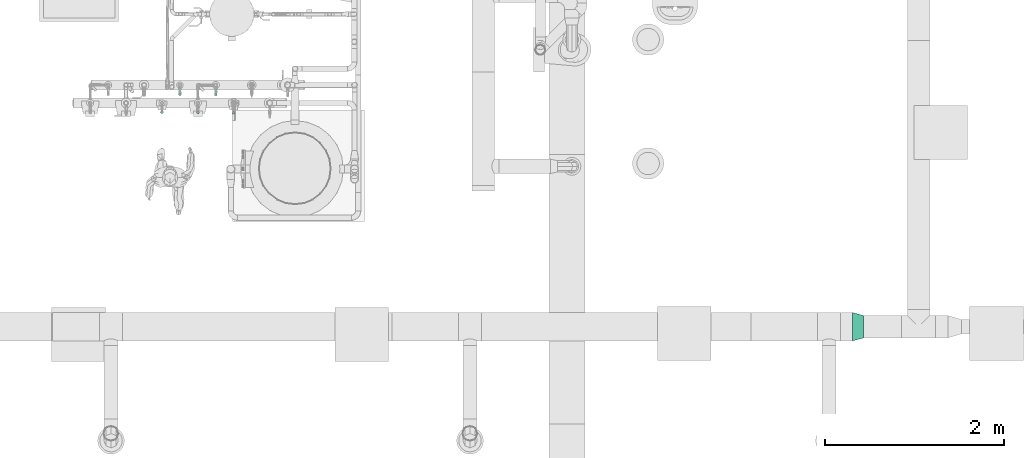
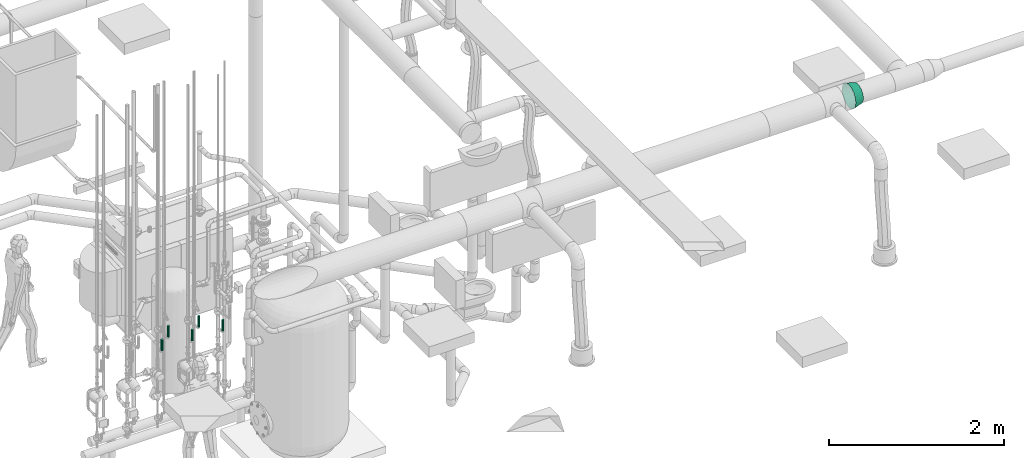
# One storey, part 99 of 374: 5 distribution control elements, 1 flow fitting.
"""IFC2X3 building model written with IfcOpenShell, lengths in metres."""

import ifcopenshell
import ifcopenshell.guid

model = None  # the IFC model being written
_history = None  # IfcOwnerHistory: only IFC2X3 demands one
_inside = {}  # id of a spatial element -> (the spatial element, [elements in it])
_under = {}  # id of a project, library or spatial element -> (it, [spatial elements below it])
_declared = {}  # id of a project -> (the project, [libraries it declares])
_typed = {}  # id of a type object -> (the type object, [elements of that type])
_made_of = {}  # id of a material, layer set ... -> (it, [elements and type objects made of it])


def new_model(schema):
    """Start an empty IFC model of exactly this schema.

    Asked for "IFC4X3", IfcOpenShell would pick the latest addendum, in which some entities
    have other attributes; the version numbers below select the first issue.
    IFC2X3 requires an IfcOwnerHistory on every rooted entity: one is made here for all.
    """
    global model, _history
    if schema == "IFC4X3":
        model = ifcopenshell.file(schema_version=(4, 3, 0, 0))
    else:
        model = ifcopenshell.file(schema=schema)
    _inside.clear()
    _under.clear()
    _declared.clear()
    _typed.clear()
    _made_of.clear()
    _history = None
    if model.schema == "IFC2X3":
        org = make("IfcOrganization", Name="unknown")
        user = make(
            "IfcPersonAndOrganization",
            ThePerson=make("IfcPerson", FamilyName="unknown"),
            TheOrganization=org,
        )
        app = make(
            "IfcApplication",
            ApplicationDeveloper=org,
            Version="unknown",
            ApplicationFullName="unknown",
            ApplicationIdentifier="unknown",
        )
        _history = make(
            "IfcOwnerHistory",
            OwningUser=user,
            OwningApplication=app,
            ChangeAction="ADDED",
            CreationDate=0,
        )
    return model


def make(cls, **values):
    """One entity of the class cls with the attributes given. An attribute that is None is left unset."""
    return model.create_entity(
        cls, **{name: value for name, value in values.items() if value is not None}
    )


def rooted(cls, **values):
    """An entity with a GlobalId (a new one), such as an element, a storey or a relation."""
    return make(cls, GlobalId=ifcopenshell.guid.new(), OwnerHistory=_history, **values)


def si_unit(unit_type, name, prefix=None):
    """IfcSIUnit, for example si_unit("LENGTHUNIT", "METRE", prefix="MILLI")."""
    return make("IfcSIUnit", UnitType=unit_type, Prefix=prefix, Name=name)


def assignment(units):
    """IfcUnitAssignment: the units of a project."""
    return None if units is None else make("IfcUnitAssignment", Units=units)


def point(xyz):
    """IfcCartesianPoint."""
    return None if xyz is None else make("IfcCartesianPoint", Coordinates=xyz)


def direction(xyz):
    """IfcDirection."""
    return None if xyz is None else make("IfcDirection", DirectionRatios=xyz)


def frame(location, z_axis=None, x_axis=None):
    """IfcAxis2Placement3D, a coordinate frame: its origin and axes. An axis left out is left unset."""
    return make(
        "IfcAxis2Placement3D",
        Location=point(location),
        Axis=direction(z_axis),
        RefDirection=direction(x_axis),
    )


def origin():
    """The frame at (0, 0, 0) with its axes left unset."""
    return frame((0.0, 0.0, 0.0))


def place(relative_to, where):
    """IfcLocalPlacement: puts the frame where relative to a parent placement (None: the world)."""
    return make(
        "IfcLocalPlacement", PlacementRelTo=relative_to, RelativePlacement=where
    )


def context(
    kind, dimensions, precision=None, world=None, true_north=None, identifier=None
):
    """IfcGeometricRepresentationContext, for example the 3D "Model" context."""
    return make(
        "IfcGeometricRepresentationContext",
        ContextIdentifier=identifier,
        ContextType=kind,
        CoordinateSpaceDimension=dimensions,
        Precision=precision,
        WorldCoordinateSystem=world,
        TrueNorth=true_north,
    )


def subcontext(parent, identifier, kind, view, scale=None):
    """IfcGeometricRepresentationSubContext, for example "Body" below "Model"."""
    return make(
        "IfcGeometricRepresentationSubContext",
        ContextIdentifier=identifier,
        ContextType=kind,
        ParentContext=parent,
        TargetScale=scale,
        TargetView=view,
    )


def project(units=None, contexts=None):
    """IfcProject with its units and contexts."""
    return rooted(
        "IfcProject",
        Name="project",
        RepresentationContexts=contexts,
        UnitsInContext=assignment(units),
    )


def spatial(cls, under=None, at=None, **own):
    """A site, building, storey or space (cls), placed at a placement, below another one or the project."""
    s = rooted(cls, ObjectPlacement=at, **own)
    if under is not None:
        _under.setdefault(under.id(), (under, []))[1].append(s)
    return s


def faces_of(points, faces, orient=None, outer=None):
    """IfcFace entities. A face is a list of loops; a loop is a list of indices into points, from 0.

    orient and outer hold one flag for each loop. By default every Orientation is true, the
    first loop of a face is its IfcFaceOuterBound and the others are IfcFaceBound.
    """
    made = []
    for i, loops in enumerate(faces):
        bounds = []
        for j, loop in enumerate(loops):
            is_outer = j == 0 if outer is None else outer[i][j]
            bounds.append(
                make(
                    "IfcFaceOuterBound" if is_outer else "IfcFaceBound",
                    Bound=make("IfcPolyLoop", Polygon=[points[k] for k in loop]),
                    Orientation=True if orient is None else orient[i][j],
                )
            )
        made.append(make("IfcFace", Bounds=bounds))
    return made


def open_shell(faces, orient=None, outer=None):
    """The faces of one IfcOpenShell. surface_model builds it on its shared points."""
    return ("IfcOpenShell", faces, orient, outer)


def surface_model(cls, points, shells):
    """IfcFaceBasedSurfaceModel or IfcShellBasedSurfaceModel (cls): surfaces that need not close."""
    shared = [point(p) for p in points]
    made = [make(c, CfsFaces=faces_of(shared, fs, o, b)) for c, fs, o, b in shells]
    if cls == "IfcFaceBasedSurfaceModel":
        return make(cls, FbsmFaces=made)
    return make(cls, SbsmBoundary=made)


def shape(context_of_items, identifier, shape_type, items):
    """IfcShapeRepresentation: the items that make up one representation, for example the "Body"."""
    return make(
        "IfcShapeRepresentation",
        ContextOfItems=context_of_items,
        RepresentationIdentifier=identifier,
        RepresentationType=shape_type,
        Items=items,
    )


def source(mapping_origin, context_of_items, identifier, shape_type, items):
    """IfcRepresentationMap: a shape defined once, which mapped items show again and again."""
    return make(
        "IfcRepresentationMap",
        MappingOrigin=mapping_origin,
        MappedRepresentation=shape(context_of_items, identifier, shape_type, items),
    )


def transform(
    local_origin,
    x_axis=None,
    y_axis=None,
    z_axis=None,
    scale=None,
    scale2=None,
    scale3=None,
    uniform=True,
):
    """IfcCartesianTransformationOperator3D, or its non-uniform kind. x_axis, y_axis, z_axis: its Axis1, 2, 3."""
    if uniform:
        return make(
            "IfcCartesianTransformationOperator3D",
            Axis1=direction(x_axis),
            Axis2=direction(y_axis),
            LocalOrigin=point(local_origin),
            Scale=scale,
            Axis3=direction(z_axis),
        )
    return make(
        "IfcCartesianTransformationOperator3DnonUniform",
        Axis1=direction(x_axis),
        Axis2=direction(y_axis),
        LocalOrigin=point(local_origin),
        Scale=scale,
        Axis3=direction(z_axis),
        Scale2=scale2,
        Scale3=scale3,
    )


def mapped(mapping_source, mapping_target):
    """IfcMappedItem: shows the shape of a source again, moved by a transform."""
    return make(
        "IfcMappedItem", MappingSource=mapping_source, MappingTarget=mapping_target
    )


def made_of(thing, what):
    """Note that an element or type object is made of a material, layer set ...; save() writes the relation."""
    if what is not None:
        _made_of.setdefault(what.id(), (what, []))[1].append(thing)
    return thing


def element(
    cls,
    number,
    at=None,
    inside=None,
    cuts=None,
    type_object=None,
    material=None,
    context=None,
    identifier="Body",
    shape_type=None,
    held_by="IfcProductDefinitionShape",
    body=None,
    shapes=None,
    **own,
):
    """One element of the class cls, such as IfcWall. Its Tag is "e" and its number.

    at: its placement. inside: the storey or other place that contains it. cuts: it is an
    opening in that element (IfcRelVoidsElement). A single representation is given by context,
    identifier, shape_type and body (its items); several are given by shapes. held_by: the class
    of the entity that holds the representations. save() writes the other relations.
    """
    e = rooted(cls, Tag="e%d" % number, ObjectPlacement=at, **own)
    if body is not None:
        shapes = [shape(context, identifier, shape_type, body)]
    if shapes is not None:
        e.Representation = make(held_by, Representations=shapes)
    if inside is not None:
        _inside.setdefault(inside.id(), (inside, []))[1].append(e)
    if cuts is not None:
        rooted(
            "IfcRelVoidsElement", RelatingBuildingElement=cuts, RelatedOpeningElement=e
        )
    if type_object is not None:
        _typed.setdefault(type_object.id(), (type_object, []))[1].append(e)
    return made_of(e, material)


def aggregate(whole, parts):
    """IfcRelAggregates: a whole, such as a stair, and the parts it consists of."""
    return rooted("IfcRelAggregates", RelatingObject=whole, RelatedObjects=parts)


def save(model, path):
    """Write the relations noted so far, then the file.

    IfcRelAggregates (storeys below a building ...), IfcRelContainedInSpatialStructure (elements
    in a storey), IfcRelDefinesByType, IfcRelAssociatesMaterial and IfcRelDeclares: one each for
    every whole, place, type object, material and project.
    """
    for whole, parts in _under.values():
        aggregate(whole, parts)
    for where, things in _inside.values():
        rooted(
            "IfcRelContainedInSpatialStructure",
            RelatedElements=things,
            RelatingStructure=where,
        )
    for kind, things in _typed.values():
        rooted("IfcRelDefinesByType", RelatedObjects=things, RelatingType=kind)
    for what, things in _made_of.values():
        rooted("IfcRelAssociatesMaterial", RelatedObjects=things, RelatingMaterial=what)
    for by, libraries in _declared.values():
        rooted("IfcRelDeclares", RelatingContext=by, RelatedDefinitions=libraries)
    model.write(path)


model = new_model("IFC2X3")

# Units and contexts
model_context = context("Model", 3, precision=1e-05, world=origin(), true_north=direction((-0.4480736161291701, 0.8939966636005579)))
body_context = subcontext(model_context, "Body", "Model", "MODEL_VIEW")
ifc_project = project(units=[si_unit("LENGTHUNIT", "METRE"), si_unit("AREAUNIT", "SQUARE_METRE"), si_unit("VOLUMEUNIT", "CUBIC_METRE"), si_unit("PLANEANGLEUNIT", "RADIAN"), si_unit("THERMODYNAMICTEMPERATUREUNIT", "KELVIN"), si_unit("MASSUNIT", "GRAM", prefix="KILO"), si_unit("TIMEUNIT", "SECOND")], contexts=[model_context])

# Site, building, storey
site_placement = place(None, origin())
site = spatial("IfcSite", under=ifc_project, at=site_placement, Name="Site 1", CompositionType="ELEMENT")
building_placement = place(site_placement, origin())
building = spatial("IfcBuilding", under=site, at=building_placement, Name="Undefined", CompositionType="ELEMENT")
storey_placement = place(building_placement, origin())
storey = spatial("IfcBuildingStorey", under=building, at=storey_placement, Name="Rez de chauss\x8ee", CompositionType="ELEMENT", Elevation=0.0)

# Flow fitting
shared_shape_1 = source(origin(), body_context, "Body", "SurfaceModel", [
    surface_model("IfcFaceBasedSurfaceModel", [(0.12335821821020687, 0.0, -1.776356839e-15), (0.12194431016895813, 0.04109143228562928, 0.0), (-0.0011221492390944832, 0.03261224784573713, 0.0), (0.0, 0.0, 0.0), (0.11779894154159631, 0.08068706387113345, -0.0102716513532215), (-0.00441212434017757, 0.06403735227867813, -0.008152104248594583), (0.1112046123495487, 0.11608851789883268, -0.03011495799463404), (-0.009645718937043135, 0.09213374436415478, -0.023900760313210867), (0.10261071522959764, 0.1448832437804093, -0.05817763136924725), (-0.016466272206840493, 0.11498670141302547, -0.04617272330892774), (0.09260291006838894, 0.16510892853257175, -0.09254724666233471), (-0.02440897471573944, 0.1310388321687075, -0.07345019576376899), (0.08186321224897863, 0.17538722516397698, -0.13088157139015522), (-0.032932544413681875, 0.13919621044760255, -0.10387426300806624), (0.07112351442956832, 0.17501768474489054, -0.1705681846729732), (-0.04145611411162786, 0.13890292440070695, -0.1353715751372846), (0.06111570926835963, 0.16402549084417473, -0.2089025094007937), (-0.049398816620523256, 0.13017896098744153, -0.16579564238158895), (0.05252181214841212, 0.14315974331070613, -0.24327212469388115), (-0.05621936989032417, 0.11361884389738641, -0.19307311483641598), (0.0459274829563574, 0.11384240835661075, -0.27133479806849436), (-0.06145296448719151, 0.09035111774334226, -0.21534507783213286), (0.041782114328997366, 0.07807141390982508, -0.2911781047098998), (-0.06474293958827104, 0.06196143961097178, -0.23109373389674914), (0.040368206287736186, 0.03828449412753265, -0.3014497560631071), (-0.06586508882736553, 0.030384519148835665, -0.2392458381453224), (0.041782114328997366, -0.002806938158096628, -0.3014497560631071), (-0.06474293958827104, -0.0022277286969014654, -0.23924583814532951), (0.04592748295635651, -0.04240256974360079, -0.2911781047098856), (-0.06145296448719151, -0.03365283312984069, -0.23109373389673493), (0.05252181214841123, -0.07780402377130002, -0.27133479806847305), (-0.056219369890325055, -0.06174922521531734, -0.21534507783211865), (0.06111570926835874, -0.10659874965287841, -0.24327212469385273), (-0.049398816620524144, -0.08460218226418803, -0.19307311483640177), (0.07112351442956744, -0.12682443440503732, -0.20890250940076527), (-0.04145611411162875, -0.10065431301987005, -0.16579564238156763), (0.08186321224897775, -0.1371027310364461, -0.17056818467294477), (-0.03293254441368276, -0.10881169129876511, -0.13537157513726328), (0.09260291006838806, -0.1367331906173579, -0.1308815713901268), (-0.024408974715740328, -0.10851840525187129, -0.10387426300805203), (0.10261071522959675, -0.12574099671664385, -0.09254724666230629), (-0.01646627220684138, -0.09979444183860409, -0.07345019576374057), (0.11120461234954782, -0.10487524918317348, -0.058177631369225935), (-0.009645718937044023, -0.08323432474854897, -0.04617272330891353), (0.11779894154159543, -0.0755579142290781, -0.030114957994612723), (-0.00441212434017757, -0.05996659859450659, -0.023900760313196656), (0.12194431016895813, -0.03978691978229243, -0.01027165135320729), (-0.0011221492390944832, -0.031576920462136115, -0.008152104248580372)], [open_shell([[[0, 1, 2, 3]], [[1, 4, 5, 2]], [[4, 6, 7, 5]], [[6, 8, 9, 7]], [[8, 10, 11, 9]], [[10, 12, 13, 11]], [[12, 14, 15, 13]], [[14, 16, 17, 15]], [[16, 18, 19, 17]], [[18, 20, 21, 19]], [[20, 22, 23, 21]], [[22, 24, 25, 23]], [[24, 26, 27, 25]], [[26, 28, 29, 27]], [[28, 30, 31, 29]], [[30, 32, 33, 31]], [[32, 34, 35, 33]], [[34, 36, 37, 35]], [[36, 38, 39, 37]], [[38, 40, 41, 39]], [[40, 42, 43, 41]], [[42, 44, 45, 43]], [[44, 46, 47, 45]], [[46, 0, 3, 47]]])]),
])
flow_fitting_placement = place(storey_placement, origin())
element("IfcFlowFitting", 1, at=flow_fitting_placement, inside=storey, Name="Réduction conique", ObjectType="Réduction conique", context=body_context, shape_type="MappedRepresentation", body=[
    mapped(shared_shape_1, transform((60.67400388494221, 8.099999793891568, 3.8000000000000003), x_axis=(-0.9646702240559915, -0.26346035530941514, 3.599996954e-15), y_axis=(-0.033193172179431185, 0.12153807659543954, -0.9920316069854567), z_axis=(0.2613609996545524, -0.9569833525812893, -0.1259892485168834))),
])

# Distribution control elements
shared_shape_2 = source(origin(), body_context, "Body", "SurfaceModel", [
    surface_model("IfcFaceBasedSurfaceModel", [(0.0, 0.004111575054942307, -1.33226763e-15), (0.0, 0.0, 0.0), (0.1499999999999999, 7.105427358e-15, -4.4408921e-16), (0.1499999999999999, 0.004111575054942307, -1.33226763e-15), (0.0, -0.003971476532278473, -0.0010641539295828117), (0.1499999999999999, -0.003971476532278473, -0.0010641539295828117), (0.0, -0.007532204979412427, -0.003119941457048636), (0.1499999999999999, -0.007532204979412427, -0.003119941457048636), (0.0, -0.01043952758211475, -0.006027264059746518), (0.1499999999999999, -0.01043952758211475, -0.006027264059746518), (0.0, -0.01249531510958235, -0.009587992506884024), (0.1499999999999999, -0.01249531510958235, -0.009587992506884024), (0.0, -0.013559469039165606, -0.013559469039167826), (0.1499999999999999, -0.013559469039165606, -0.013559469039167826), (0.0, -0.013559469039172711, -0.017671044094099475), (0.1499999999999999, -0.013559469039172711, -0.017671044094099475), (0.0, -0.01249531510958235, -0.021642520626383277), (0.1499999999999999, -0.01249531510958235, -0.021642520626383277), (0.0, -0.010439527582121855, -0.025203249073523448), (0.1499999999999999, -0.010439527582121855, -0.025203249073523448), (0.0, -0.007532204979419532, -0.028110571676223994), (0.1499999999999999, -0.007532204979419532, -0.028110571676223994), (0.0, -0.003971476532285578, -0.030166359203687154), (0.1499999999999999, -0.003971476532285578, -0.030166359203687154), (0.0, 7.105427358e-15, -0.031230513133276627), (0.1499999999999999, 7.105427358e-15, -0.031230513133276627), (0.0, 0.004111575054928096, -0.031230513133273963), (0.1499999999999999, 0.004111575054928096, -0.031230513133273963), (0.0, 0.00808305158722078, -0.03016635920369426), (0.1499999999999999, 0.00808305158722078, -0.03016635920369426), (0.0, 0.011643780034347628, -0.028110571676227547), (0.1499999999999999, 0.011643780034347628, -0.028110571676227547), (0.0, 0.014551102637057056, -0.02520324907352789), (0.1499999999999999, 0.014551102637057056, -0.02520324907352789), (0.0, 0.01660689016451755, -0.02164252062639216), (0.1499999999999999, 0.01660689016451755, -0.02164252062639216), (0.0, 0.017671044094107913, -0.01767104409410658), (0.1499999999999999, 0.017671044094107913, -0.01767104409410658), (0.0, 0.017671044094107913, -0.013559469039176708), (0.1499999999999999, 0.017671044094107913, -0.013559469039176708), (0.0, 0.016606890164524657, -0.00958799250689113), (0.1499999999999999, 0.016606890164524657, -0.00958799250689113), (0.0, 0.014551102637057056, -0.006027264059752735), (0.1499999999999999, 0.014551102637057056, -0.006027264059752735), (0.0, 0.01164378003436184, -0.003119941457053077), (0.1499999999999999, 0.01164378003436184, -0.003119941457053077), (0.0, 0.00808305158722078, -0.0010641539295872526), (0.1499999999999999, 0.00808305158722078, -0.0010641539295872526), (0.0, 0.002055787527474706, -0.015615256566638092), (0.1499999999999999, 0.002055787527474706, -0.015615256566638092)], [open_shell([[[0, 1, 2, 3]], [[1, 4, 5, 2]], [[4, 6, 7, 5]], [[6, 8, 9, 7]], [[8, 10, 11, 9]], [[10, 12, 13, 11]], [[12, 14, 15, 13]], [[14, 16, 17, 15]], [[16, 18, 19, 17]], [[18, 20, 21, 19]], [[20, 22, 23, 21]], [[22, 24, 25, 23]], [[24, 26, 27, 25]], [[26, 28, 29, 27]], [[28, 30, 31, 29]], [[30, 32, 33, 31]], [[32, 34, 35, 33]], [[34, 36, 37, 35]], [[36, 38, 39, 37]], [[38, 40, 41, 39]], [[40, 42, 43, 41]], [[42, 44, 45, 43]], [[44, 46, 47, 45]], [[46, 0, 3, 47]], [[48, 1, 0]], [[48, 4, 1]], [[48, 6, 4]], [[48, 8, 6]], [[48, 10, 8]], [[48, 12, 10]], [[48, 14, 12]], [[48, 16, 14]], [[48, 18, 16]], [[48, 20, 18]], [[48, 22, 20]], [[48, 24, 22]], [[48, 26, 24]], [[48, 28, 26]], [[48, 30, 28]], [[48, 32, 30]], [[48, 34, 32]], [[48, 36, 34]], [[48, 38, 36]], [[48, 40, 38]], [[48, 42, 40]], [[48, 44, 42]], [[48, 46, 44]], [[48, 0, 46]], [[49, 47, 3]], [[49, 45, 47]], [[49, 43, 45]], [[49, 41, 43]], [[49, 39, 41]], [[49, 37, 39]], [[49, 35, 37]], [[49, 33, 35]], [[49, 31, 33]], [[49, 29, 31]], [[49, 27, 29]], [[49, 25, 27]], [[49, 23, 25]], [[49, 21, 23]], [[49, 19, 21]], [[49, 17, 19]], [[49, 15, 17]], [[49, 13, 15]], [[49, 11, 13]], [[49, 9, 11]], [[49, 7, 9]], [[49, 5, 7]], [[49, 2, 5]], [[49, 3, 2]]])]),
])
distribution_control_element_1_placement = place(storey_placement, origin())
element("IfcDistributionControlElement", 2, at=distribution_control_element_1_placement, inside=storey, Name="Thermomètre droit", ObjectType="Thermomètre droit", context=body_context, shape_type="MappedRepresentation", body=[
    mapped(shared_shape_2, transform((52.853485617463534, 10.631800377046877, 1.4932197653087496), x_axis=(0.0, 0.0, 1.0), y_axis=(0.9914448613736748, 0.13052619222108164, 0.0), z_axis=(-0.13052619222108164, 0.9914448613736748, 0.0))),
])
distribution_control_element_2_placement = place(storey_placement, origin())
element("IfcDistributionControlElement", 3, at=distribution_control_element_2_placement, inside=storey, Name="Thermomètre droit", ObjectType="Thermomètre droit", context=body_context, shape_type="MappedRepresentation", body=[
    mapped(shared_shape_2, transform((53.05348561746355, 10.831800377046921, 1.4932197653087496), x_axis=(0.0, 0.0, 1.0), y_axis=(0.9914448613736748, 0.13052619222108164, 0.0), z_axis=(-0.13052619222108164, 0.9914448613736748, 0.0))),
])
distribution_control_element_3_placement = place(storey_placement, origin())
element("IfcDistributionControlElement", 4, at=distribution_control_element_3_placement, inside=storey, Name="Thermomètre droit", ObjectType="Thermomètre droit", context=body_context, shape_type="MappedRepresentation", body=[
    mapped(shared_shape_2, transform((53.253485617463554, 10.628400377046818, 1.4932197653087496), x_axis=(0.0, 0.0, 1.0), y_axis=(0.9914448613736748, 0.13052619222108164, 0.0), z_axis=(-0.13052619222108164, 0.9914448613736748, 0.0))),
])
distribution_control_element_4_placement = place(storey_placement, origin())
element("IfcDistributionControlElement", 5, at=distribution_control_element_4_placement, inside=storey, Name="Thermomètre droit", ObjectType="Thermomètre droit", context=body_context, shape_type="MappedRepresentation", body=[
    mapped(shared_shape_2, transform((53.45348561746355, 10.828400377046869, 1.4932197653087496), x_axis=(0.0, 0.0, 1.0), y_axis=(0.9914448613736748, 0.13052619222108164, 0.0), z_axis=(-0.13052619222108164, 0.9914448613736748, 0.0))),
])
distribution_control_element_5_placement = place(storey_placement, origin())
element("IfcDistributionControlElement", 6, at=distribution_control_element_5_placement, inside=storey, Name="Thermomètre droit", ObjectType="Thermomètre droit", context=body_context, shape_type="MappedRepresentation", body=[
    mapped(shared_shape_2, transform((53.653485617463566, 10.624050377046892, 1.4932197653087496), x_axis=(0.0, 0.0, 1.0), y_axis=(0.9914448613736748, 0.13052619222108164, 0.0), z_axis=(-0.13052619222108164, 0.9914448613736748, 0.0))),
])

save(model, "model.ifc")
